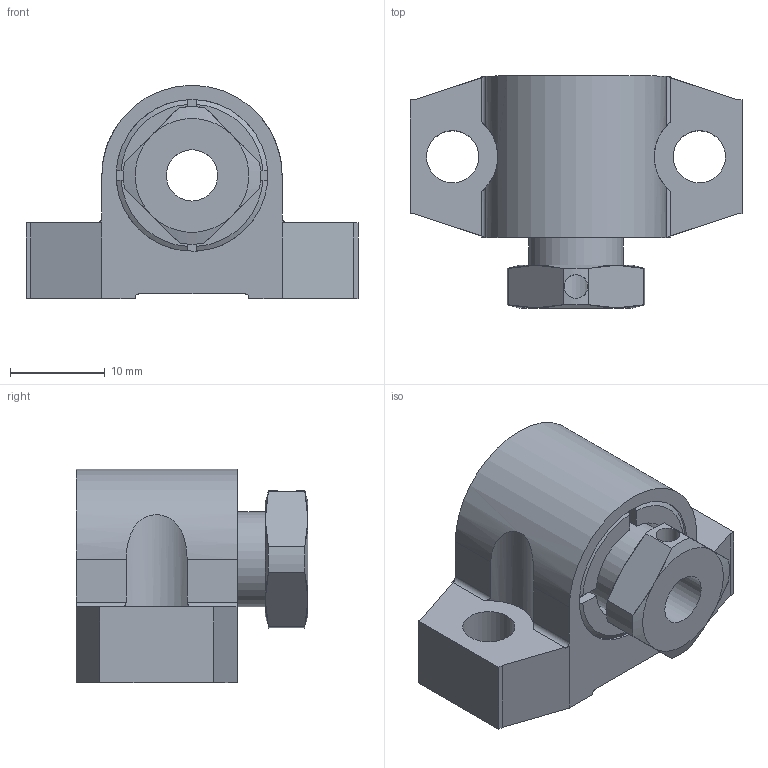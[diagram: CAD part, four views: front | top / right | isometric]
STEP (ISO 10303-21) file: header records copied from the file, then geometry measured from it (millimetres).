
FILE_DESCRIPTION((''),'1');
FILE_NAME('C:/Users/h-sekido/Desktop/今日のごみ/図面/作成中3D/クロクポ/stp/', '2021-04-30T04:27:00',(''), (''), 'KCM Version 1.1.1442.0', 'Kubotek KeyCreator', '');
FILE_SCHEMA(('AUTOMOTIVE_DESIGN'));
Length unit declared in the file: millimetre
Bounding box: 35 x 24.45 x 22.5 mm (x, y, z)
Surface area: 4107.2 mm2 (no closed solid volume)
Topology: 0 solids, 92 shells, 92 faces, 467 edges, 456 vertices
Faces by surface type: plane 52, cylinder 24, cone 12, bspline 4
Full cylindrical faces by diameter (mm): 2.5 x1, 5.4 x1, 5.5 x2, 6 x1, 7.759 x2, 10 x1, 11 x1, 13.323 x1, 16 x1
Entity records: 5088 total; most frequent: CARTESIAN_POINT 1541, DIRECTION 692, ORIENTED_EDGE 478, EDGE_CURVE 467, VERTEX_POINT 447, VECTOR 248, LINE 248, AXIS2_PLACEMENT_3D 222
